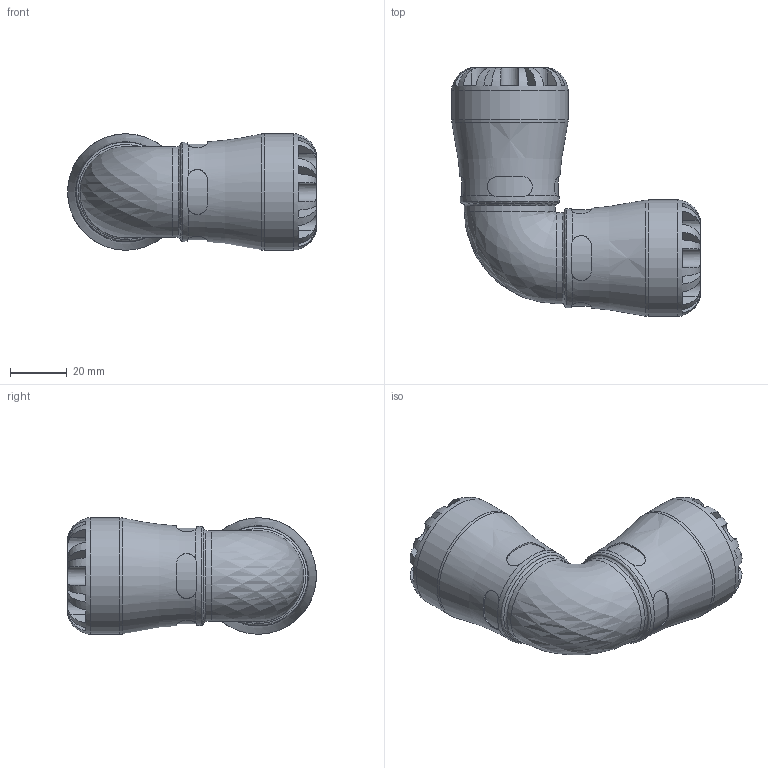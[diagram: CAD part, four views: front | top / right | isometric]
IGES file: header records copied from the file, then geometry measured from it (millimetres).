
Global section: file name: 100500020_190400020.ipt; native system: Autodesk Inventor 2015; preprocessor: unknown; author: KIM; date: 20170122.114427; units: millimetre
Bounding box: 87.5 x 87.5 x 41 mm (x, y, z)
Volume: 92062.9 mm3; surface area: 26232.3 mm2
Topology: 1 solids, 1 shells, 196 faces, 531 edges, 339 vertices
Faces by surface type: plane 116, revolution 50, cylinder 30
Full cylindrical faces by diameter (mm): 31.98 x2, 34.85 x2, 41 x2
